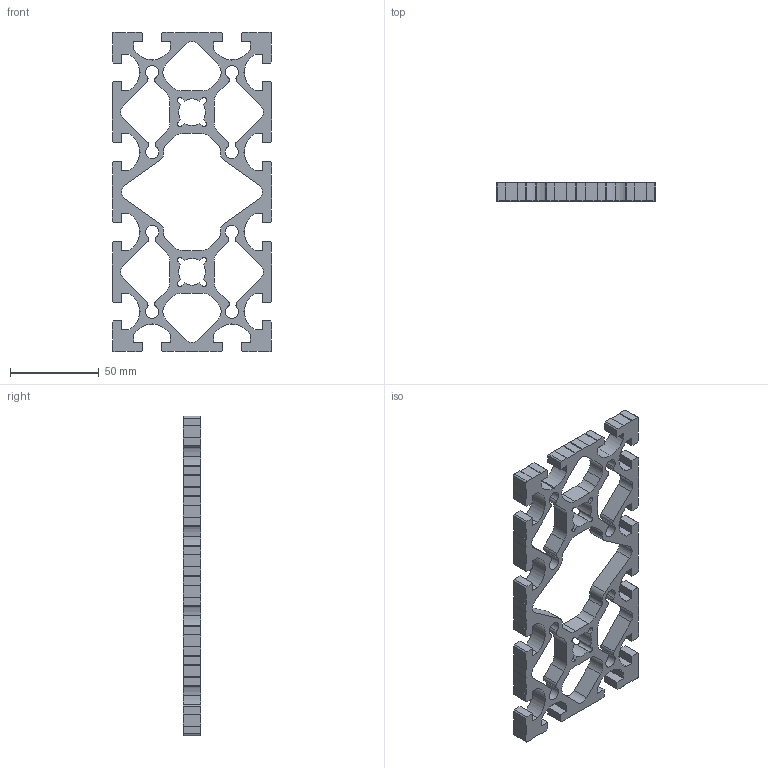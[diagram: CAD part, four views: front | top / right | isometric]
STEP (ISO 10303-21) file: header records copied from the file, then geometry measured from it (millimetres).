
FILE_DESCRIPTION((''),'2;1');
FILE_NAME('PR090180P','2002-12-27T',('Lipro doo'),('Lipro d.o.o.'),'PRO/ENGINEER BY PARAMETRIC TECHNOLOGY CORPORATION, 2001150','PRO/ENGINEER BY PARAMETRIC TECHNOLOGY CORPORATION, 2001150','');
FILE_SCHEMA(('CONFIG_CONTROL_DESIGN'));
Length unit declared in the file: millimetre
Products named in the file (1): PR090180P
Bounding box: 90 x 10 x 180 mm (x, y, z)
Volume: 56998.3 mm3; surface area: 32952.8 mm2
Topology: 1 solids, 1 shells, 422 faces, 1272 edges, 840 vertices
Faces by surface type: plane 324, cylinder 98
Entity records: 14262 total; most frequent: CARTESIAN_POINT 2570, ORIENTED_EDGE 2544, DIRECTION 2312, EDGE_CURVE 1272, VECTOR 1052, LINE 1052, VERTEX_POINT 840, AXIS2_PLACEMENT_3D 630
